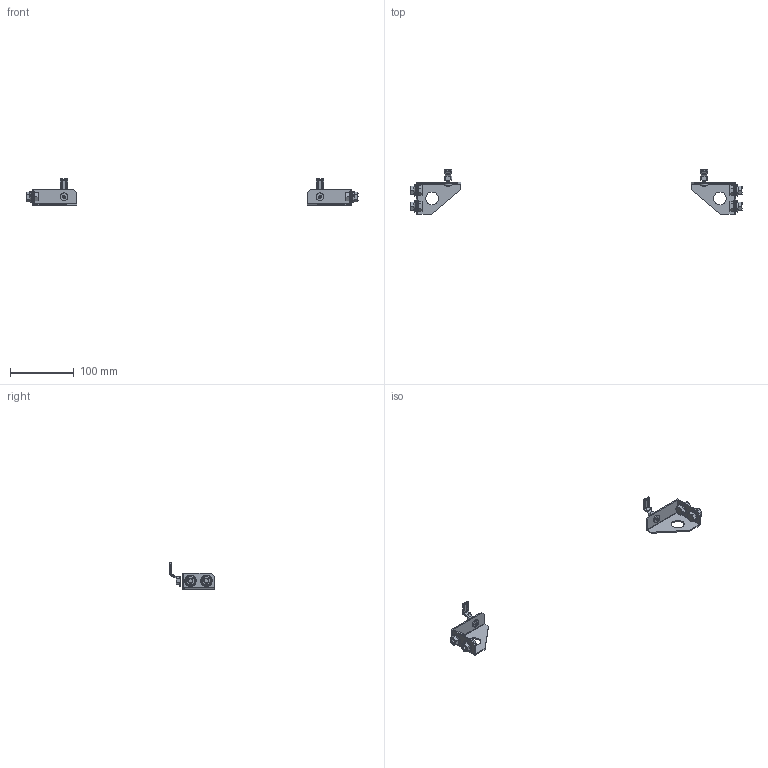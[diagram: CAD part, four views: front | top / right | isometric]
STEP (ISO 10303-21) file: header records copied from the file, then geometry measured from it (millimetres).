
FILE_DESCRIPTION(('CAx-IF Rec.Pracs.---Model Styling and Organization---1.2---2011-12-15','CAx-IF Rec.Pracs.---Geometric and Assembly Validation Properties---4.1---2014-06-16','CAx-IF Rec.Pracs.---PMI Polyline Presentation---2.0---2013-05-24'),'2;1');
FILE_NAME('R5MPBS.stp','2021-05-05T13:17:27+03:00',(''),(''),'STEP Interface 4.4 by CT CoreTechnologie','3D_Evolution4.4 by CT CoreTechnologie','');
FILE_SCHEMA(('AUTOMOTIVE_DESIGN { 1 0 10303 214 1 1 1 1 }'));
Length unit declared in the file: millimetre
Products named in the file (7): R5MPBS; RB.0816.00.00.0_-00; RB.0816.00.00.0_-01; M6x16-DIN 7985 ISR_thread; AC00C485; M8x16-DIN 6921_thread; M8-DIN 6923 (CM100800)_stright
Assembly tree (14 placements, depth 2):
  R5MPBS
    RB.0816.00.00.0_-00
    RB.0816.00.00.0_-01
    M6x16-DIN 7985 ISR_thread  x2
    AC00C485  x2
    M8x16-DIN 6921_thread  x4
    M8-DIN 6923 (CM100800)_stright  x4
Bounding box: 519 x 70 x 42.05 mm (x, y, z)
Surface area: 32044.8 mm2 (no closed solid volume)
Topology: 0 solids, 16 shells, 456 faces, 1042 edges, 616 vertices
Faces by surface type: plane 184, bspline 168, cylinder 104
Entity records: 7263 total; most frequent: CARTESIAN_POINT 2327, ORIENTED_EDGE 948, DIRECTION 913, EDGE_CURVE 474, AXIS2_PLACEMENT_3D 328, VERTEX_POINT 284, VECTOR 257, LINE 257
